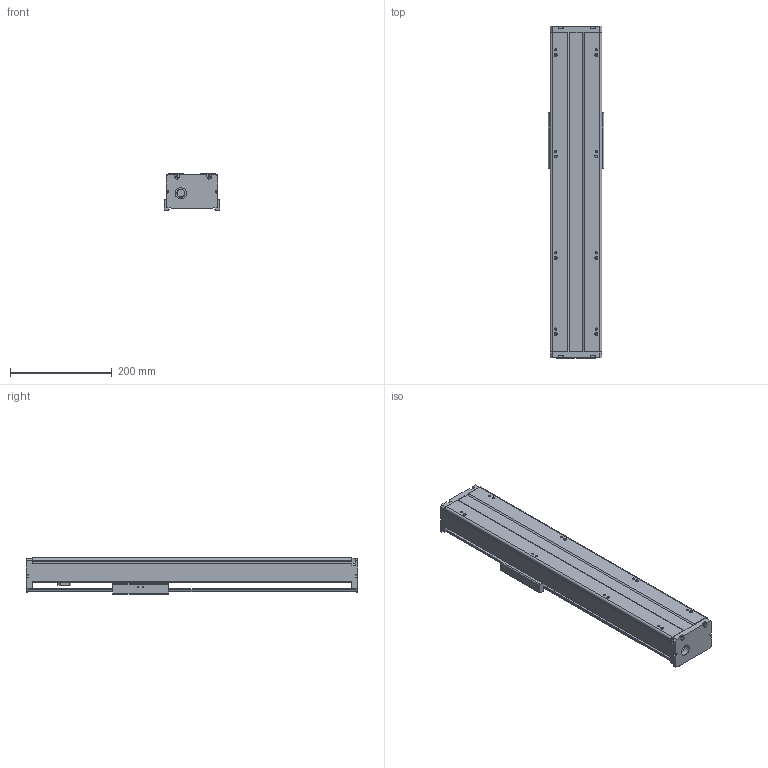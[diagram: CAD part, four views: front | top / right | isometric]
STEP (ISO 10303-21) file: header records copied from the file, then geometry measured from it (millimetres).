
FILE_DESCRIPTION(/* description */ (''),/* implementation_level */ '2;1');
FILE_NAME(/* name */ 'TKA100-400A1F0_asm1.stp',/* time_stamp */ '2017-02-20T15:44:52+08:00',/* author */ (''),/* organization */ (''),/* preprocessor_version */ 'ST-DEVELOPER v15',/* originating_system */ 'SIEMENS PLM Software NX 8.5',/* authorisation */ '');
FILE_SCHEMA (('AUTOMOTIVE_DESIGN { 1 0 10303 214 3 1 1 1 }'));
Length unit declared in the file: millimetre
Products named in the file (3): 200-02; 200-01; TKA100-400A1F0_asm1_stp
Assembly tree (2 placements, depth 2):
  TKA100-400A1F0_asm1_stp
    200-01
    200-02
Bounding box: 110 x 654 x 71 mm (x, y, z)
Volume: 1497184.2 mm3; surface area: 486982.1 mm2
Topology: 2 solids, 8 shells, 675 faces, 1800 edges, 1175 vertices
Faces by surface type: cylinder 261, plane 255, cone 106, torus 27, bspline 26
Full cylindrical faces by diameter (mm): 2.5 x6, 2.6 x8, 3.3 x8, 3.4 x8, 3.8 x4, 4.2 x17, 4.3 x4, 4.5 x4, 5 x1, 5.5 x16, 6.6 x4, 8 x5, 9 x4, 10 x8, 11 x4, 12 x6, 12.05 x2, 15.3 x1, 15.4 x1, 16 x1, 17 x2, 18 x1, 22 x1, 24 x1, 28 x5, 30 x1
Entity records: 25576 total; most frequent: CARTESIAN_POINT 9784, DIRECTION 3219, ORIENTED_EDGE 3032, EDGE_CURVE 1516, AXIS2_PLACEMENT_3D 1283, VERTEX_POINT 1105, EDGE_LOOP 970, ADVANCED_FACE 675
